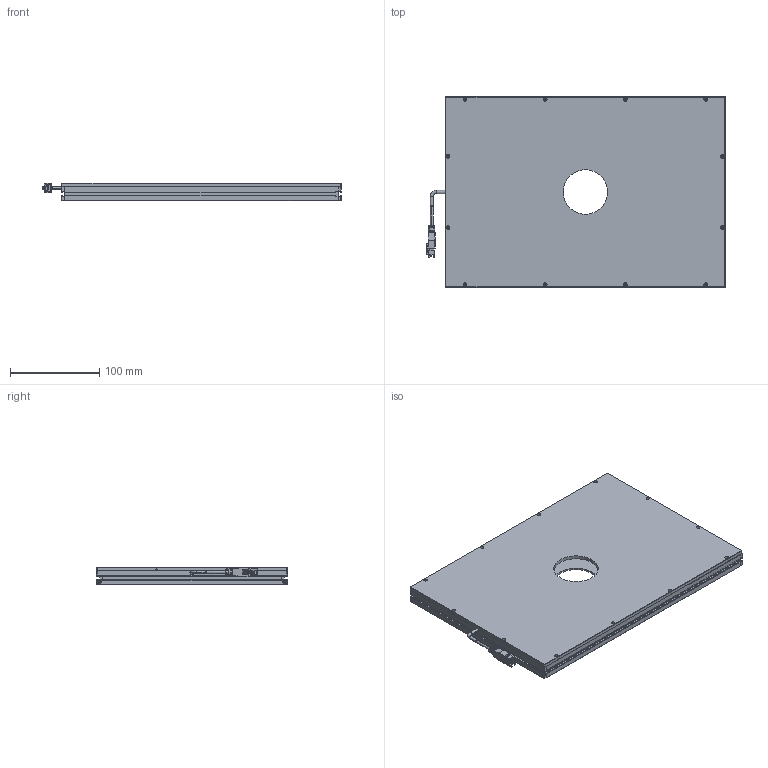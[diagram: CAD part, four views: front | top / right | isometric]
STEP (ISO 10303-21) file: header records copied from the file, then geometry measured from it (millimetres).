
FILE_DESCRIPTION (( 'STEP AP203' ), '1' );
FILE_NAME ('CRT-2KFLD300200Y50-¼òÒ×3DÍ¼.STEP', '2021-11-24T06:21:35', ( 'Admin' ), ( '' ), 'SwSTEP 2.0', 'SolidWorks 2018', '' );
FILE_SCHEMA (( 'CONFIG_CONTROL_DESIGN' ));
Length unit declared in the file: millimetre
Products named in the file (1): CRT-2KFLD300200Y50-潠眢3D芞
Bounding box: 334.95 x 214 x 20 mm (x, y, z)
Surface area: 350609.8 mm2 (no closed solid volume)
Topology: 0 solids, 10 shells, 324 faces, 1145 edges, 799 vertices
Faces by surface type: plane 175, cylinder 130, cone 11, bspline 8
Entity records: 12732 total; most frequent: CARTESIAN_POINT 2882, DIRECTION 2069, ORIENTED_EDGE 1818, EDGE_CURVE 1143, VERTEX_POINT 799, VECTOR 725, LINE 725, AXIS2_PLACEMENT_3D 672
